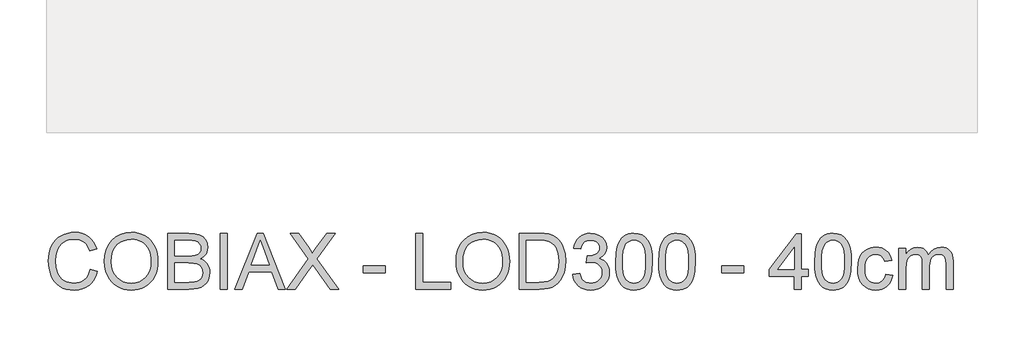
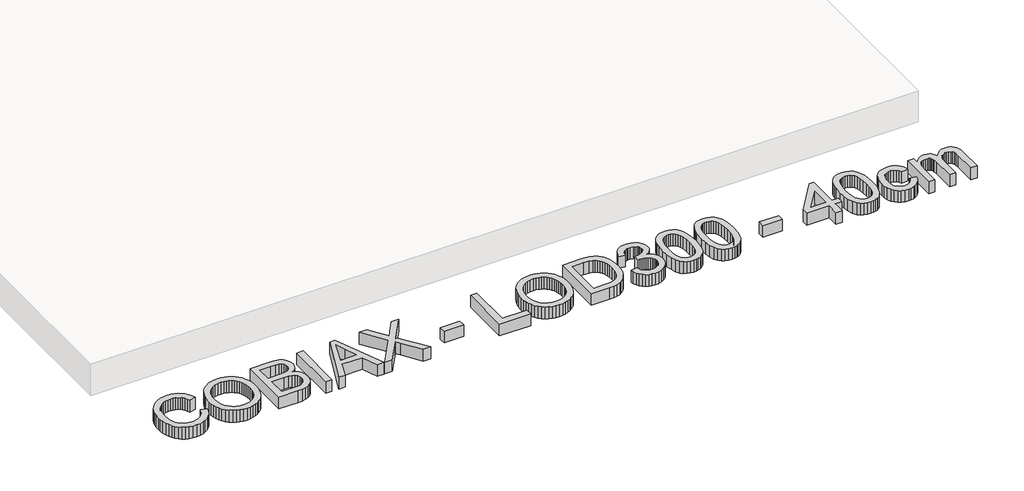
# One storey, part 12 of 18: 1 proxy.
"""IFC4 building model written with IfcOpenShell, lengths in millimetres."""

from ifc_helpers import new_model, si_unit, origin, origin_with_axes, place, context, project, spatial, polyline, outline, extrude, element, save

model = new_model("IFC4")

# Units and contexts
model_context = context("Model", 3, world=origin())
ifc_project = project(units=[si_unit("LENGTHUNIT", "METRE", prefix="MILLI")], contexts=[model_context])

# Site, building, storey
site = spatial("IfcSite", under=ifc_project)
building = spatial("IfcBuilding", under=site)
storey = spatial("IfcBuildingStorey", under=building, Name="COBIAX Slabs", Elevation=0.0)

# Proxy
placement = place(None, origin())
element("IfcBuildingElementProxy", 1, Name="600mm Arial", ObjectType="600mm Arial", at=placement, inside=storey, context=model_context, shape_type="SweptSolid", body=[
    extrude(outline(polyline([(24798.2153953, -22620.9127725), (24873.5576279, -22640.3369419), (24858.64921, -22687.1913125), (24838.7927794, -22728.13198), (24813.9883358, -22763.1589445), (24784.2358795, -22792.2722059), (24750.2067949, -22815.1590645), (24712.5724668, -22831.5068207), (24671.3328952, -22841.3154744), (24626.4880799, -22844.5850256), (24580.5442173, -22842.1110192), (24539.097712, -22834.6889999), (24502.1485641, -22822.3189678), (24469.6967736, -22805.0009229), (24441.2962836, -22782.9923826), (24416.5010371, -22756.5508642), (24395.3110342, -22725.6763677), (24377.7262748, -22690.3688932), (24363.9169044, -22652.155151), (24354.0530684, -22612.5618512), (24348.1347668, -22571.588994), (24346.1619996, -22529.2365793), (24348.3922842, -22483.7939559), (24355.083138, -22441.3495707), (24366.234561, -22401.9034238), (24381.8465531, -22365.4555151), (24401.5696266, -22332.6082514), (24425.0542935, -22303.9640396), (24452.3005538, -22279.5228795), (24483.3084074, -22259.2847713), (24517.0247923, -22243.4152617), (24552.3966461, -22232.0798977), (24589.4239689, -22225.2786793), (24628.1067607, -22223.0116065), (24671.1995379, -22225.9454655), (24710.7146627, -22234.7470422), (24746.6521351, -22249.4163368), (24779.0119551, -22269.9533491), (24807.2606938, -22295.8154534), (24830.8649224, -22326.4600236), (24849.8246407, -22361.8870597), (24864.1398488, -22402.0965618), (24788.7976162, -22420.0492032), (24776.9334219, -22390.420907), (24762.6779946, -22365.1060272), (24746.0313343, -22344.1045638), (24726.993441, -22327.4165168), (24705.4539502, -22314.7015953), (24681.3024972, -22305.6195086), (24654.5390821, -22300.1702565), (24625.1637048, -22298.3538392), (24591.3645465, -22300.3679931), (24560.4532618, -22306.4104549), (24532.4298508, -22316.4812245), (24507.2943135, -22330.5803019), (24485.3639481, -22348.0730908), (24466.9560527, -22368.3249946), (24452.0706275, -22391.3360134), (24440.7076724, -22417.1061472), (24426.3050923, -22472.2516583), (24421.5042322, -22529.0894265), (24427.1880091, -22598.6927), (24434.2927301, -22629.9626696), (24444.2393395, -22658.8781944), (24457.1887858, -22684.8644589), (24473.3020171, -22707.3466473), (24492.5790337, -22726.3247597), (24515.0198354, -22741.7987961), (24539.5345719, -22753.8055448), (24565.0333926, -22762.3817938), (24591.5162978, -22767.5275432), (24618.9832872, -22769.242793), (24651.7385804, -22766.9067423), (24681.8727143, -22759.8985903), (24709.385689, -22748.218337), (24734.2775045, -22731.8659823), (24755.9595496, -22710.9151027), (24773.8432131, -22685.4392745), (24787.928495, -22655.4384978), (24798.2153953, -22620.9127725)])), origin_with_axes(), (0.0, 0.0, 1.0), 150.0),
    extrude(outline(polyline([(24948.8998605, -22541.7445672), (24953.9214497, -22471.0468447), (24968.9862175, -22408.4609203), (24994.0941636, -22353.9867939), (25010.4143286, -22329.7916549), (25029.2452883, -22307.6244654), (25072.3334669, -22270.6063397), (25121.2525753, -22244.1648213), (25176.0026132, -22228.2999102), (25236.5835807, -22223.0116065), (25277.1333737, -22225.49481), (25315.6414215, -22232.9444204), (25352.1077243, -22245.3604378), (25386.532282, -22262.742862), (25417.9494044, -22284.5674614), (25445.3934012, -22310.310004), (25468.8642725, -22339.9704899), (25488.3620182, -22373.548919), (25503.6843033, -22410.2819362), (25514.6287927, -22449.4061864), (25521.1954863, -22490.9216695), (25523.3843842, -22534.8283857), (25521.0805232, -22579.3145159), (25514.1689402, -22621.3910191), (25502.6496352, -22661.0578953), (25486.5226083, -22698.3151443), (25466.1695369, -22732.178682), (25441.9720986, -22761.6644239), (25413.9302936, -22786.7723701), (25382.0441216, -22807.5025205), (25347.5689802, -22823.7261165), (25311.7602665, -22835.3143993), (25274.6179805, -22842.267369), (25236.1421223, -22844.5850256), (25194.8841566, -22842.0236472), (25155.870271, -22834.339512), (25119.1004656, -22821.5326201), (25084.5747403, -22803.6029713), (25053.1944061, -22781.2449431), (25025.8607739, -22755.1529126), (25002.5738436, -22725.3268798), (24983.3336153, -22691.7668448), (24968.2688476, -22655.8201753), (24957.5082992, -22618.8342393), (24951.0519702, -22580.8090365), (24948.8998605, -22541.7445672)]), holes=[polyline([(25024.2420931, -22542.4803312), (25028.0082851, -22592.4295091), (25039.3068608, -22636.7684865), (25058.1378205, -22675.4972636), (25084.5011639, -22708.6158402), (25116.5482842, -22735.140132), (25152.4305743, -22754.0860548), (25192.1480343, -22765.4536084), (25235.700664, -22769.242793), (25279.9982547, -22765.4168202), (25320.1847641, -22753.938902), (25356.2601923, -22734.8090382), (25388.2245392, -22708.027229), (25414.3947446, -22674.2096766), (25433.0877485, -22633.9725834), (25444.3035508, -22587.3159493), (25448.0421516, -22534.2397745), (25446.4418649, -22499.7600345), (25441.6410049, -22467.5427687), (25433.6395715, -22437.5879773), (25422.4375647, -22409.8956601), (25408.1591448, -22384.8291007), (25390.9284718, -22362.7515824), (25370.7455459, -22343.6631054), (25347.6103669, -22327.5636696), (25322.2403048, -22314.7843688), (25295.3527295, -22305.6562968), (25266.9476409, -22300.1794536), (25237.0250391, -22298.3538392), (25194.9853241, -22301.8717107), (25155.9806356, -22312.4253255), (25120.0109735, -22330.0146834), (25087.0763379, -22354.6397844), (25059.5863558, -22387.4870481), (25039.9506543, -22429.7428937), (25028.1692334, -22481.4073214), (25024.2420931, -22542.4803312)])]), origin_with_axes(), (0.0, 0.0, 1.0), 150.0),
    extrude(outline(polyline([(25626.979954, -22835.1672465), (25626.979954, -22232.4293856), (25856.9797774, -22232.4293856), (25920.2370865, -22236.8623637), (25969.6252443, -22250.1612978), (25989.7024042, -22260.2182718), (26007.4803016, -22272.6572818), (26022.9589366, -22287.4783277), (26036.1383091, -22304.6814095), (26054.1829209, -22342.3525258), (26060.1977915, -22381.7894757), (26055.1394141, -22418.0810345), (26039.9642818, -22452.2020895), (26014.56203, -22482.0557135), (25978.8222942, -22505.5449788), (26001.562, -22515.2386694), (26021.5149998, -22527.8386278), (26038.6812934, -22543.3448538), (26053.0608808, -22561.7573477), (26064.423836, -22582.5150893), (26072.5402325, -22605.0570585), (26077.4100704, -22629.3832555), (26079.0333497, -22655.4936801), (26074.6003717, -22697.524198), (26061.3014375, -22736.5012954), (26041.4542039, -22769.6474632), (26017.3763273, -22794.1851923), (25987.8905854, -22811.9538926), (25951.8197558, -22824.7929743), (25907.986616, -22832.5736785), (25855.2139438, -22835.1672465), (25626.979954, -22835.1672465)]), holes=[polyline([(25702.3221866, -22477.2916416), (25839.9100528, -22477.2916416), (25888.0290178, -22475.6729608), (25920.2554806, -22470.8169185), (25948.3800591, -22459.6516999), (25968.5951747, -22442.9314633), (25980.7904629, -22420.9137259), (25984.8555589, -22393.8560051), (25981.0663744, -22367.5892307), (25969.6988207, -22344.7069706), (25951.2679328, -22326.8462997), (25926.2887453, -22315.6442929), (25887.9554414, -22309.7397869), (25829.4622042, -22307.7716182), (25702.3221866, -22307.7716182), (25702.3221866, -22477.2916416)]), polyline([(25702.3221866, -22759.8250139), (25856.8326246, -22759.8250139), (25912.7506879, -22756.8819579), (25938.7047626, -22750.3520525), (25960.0603125, -22740.474421), (25977.4243426, -22726.3293582), (25991.4038584, -22706.9971594), (26000.6193024, -22683.3423471), (26003.6911171, -22656.2294441), (26000.0858735, -22624.7387453), (25989.2701429, -22597.6626304), (25970.3794024, -22576.4910216), (25942.5491295, -22562.7138409), (25903.1305737, -22555.1538659), (25849.4749847, -22552.6338742), (25702.3221866, -22552.6338742), (25702.3221866, -22759.8250139)])]), origin_with_axes(), (0.0, 0.0, 1.0), 150.0),
    extrude(outline(polyline([(26192.0466986, -22835.1672465), (26192.0466986, -22232.4293856), (26267.3889312, -22232.4293856), (26267.3889312, -22835.1672465), (26192.0466986, -22835.1672465)])), origin_with_axes(), (0.0, 0.0, 1.0), 150.0),
    extrude(outline(polyline([(26347.8815118, -22835.1672465), (26588.4763366, -22232.4293856), (26652.6349566, -22232.4293856), (26893.2297814, -22835.1672465), (26813.6201177, -22835.1672465), (26744.6054554, -22646.811665), (26496.358685, -22646.811665), (26427.4911755, -22835.1672465), (26347.8815118, -22835.1672465)]), holes=[polyline([(26524.0234111, -22571.4694324), (26717.0878821, -22571.4694324), (26662.7884996, -22423.2865647), (26620.5556466, -22307.7716182), (26583.0316831, -22410.3371185), (26524.0234111, -22571.4694324)])]), origin_with_axes(), (0.0, 0.0, 1.0), 150.0),
    extrude(outline(polyline([(26907.7979084, -22835.1672465), (27140.1521766, -22506.7222012), (26945.4690247, -22232.4293856), (27035.8208428, -22232.4293856), (27145.4496773, -22386.7926708), (27171.6060872, -22425.8985269), (27182.3850296, -22446.9781652), (27225.6479523, -22385.7626012), (27334.0995644, -22232.4293856), (27425.7757576, -22232.4293856), (27231.0926058, -22507.605118), (27463.4468739, -22835.1672465), (27373.0950559, -22835.1672465), (27218.2903124, -22616.7924942), (27186.0638496, -22571.4694324), (27150.6000252, -22621.2070781), (26999.4741016, -22835.1672465), (26907.7979084, -22835.1672465)])), origin_with_axes(), (0.0, 0.0, 1.0), 150.0),
    extrude(outline(polyline([(27727.1446881, -22656.2294441), (27727.1446881, -22580.8872115), (27962.589165, -22580.8872115), (27962.589165, -22656.2294441), (27727.1446881, -22656.2294441)])), origin_with_axes(), (0.0, 0.0, 1.0), 150.0),
    extrude(outline(polyline([(28292.2114327, -22835.1672465), (28292.2114327, -22232.4293856), (28367.5536653, -22232.4293856), (28367.5536653, -22759.8250139), (28668.9225957, -22759.8250139), (28668.9225957, -22835.1672465), (28292.2114327, -22835.1672465)])), origin_with_axes(), (0.0, 0.0, 1.0), 150.0),
    extrude(outline(polyline([(28725.4292702, -22541.7445672), (28730.4508594, -22471.0468447), (28745.5156271, -22408.4609203), (28770.6235733, -22353.9867939), (28786.9437383, -22329.7916549), (28805.7746979, -22307.6244654), (28848.8628766, -22270.6063397), (28897.7819849, -22244.1648213), (28952.5320229, -22228.2999102), (29013.1129904, -22223.0116065), (29053.6627833, -22225.49481), (29092.1708312, -22232.9444204), (29128.637134, -22245.3604378), (29163.0616917, -22262.742862), (29194.4788141, -22284.5674614), (29221.9228109, -22310.310004), (29245.3936822, -22339.9704899), (29264.8914279, -22373.548919), (29280.213713, -22410.2819362), (29291.1582024, -22449.4061864), (29297.724896, -22490.9216695), (29299.9137939, -22534.8283857), (29297.6099329, -22579.3145159), (29290.6983499, -22621.3910191), (29279.1790449, -22661.0578953), (29263.052018, -22698.3151443), (29242.6989466, -22732.178682), (29218.5015083, -22761.6644239), (29190.4597033, -22786.7723701), (29158.5735313, -22807.5025205), (29124.0983898, -22823.7261165), (29088.2896761, -22835.3143993), (29051.1473902, -22842.267369), (29012.671532, -22844.5850256), (28971.4135663, -22842.0236472), (28932.3996807, -22834.339512), (28895.6298753, -22821.5326201), (28861.10415, -22803.6029713), (28829.7238158, -22781.2449431), (28802.3901836, -22755.1529126), (28779.1032533, -22725.3268798), (28759.8630249, -22691.7668448), (28744.7982572, -22655.8201753), (28734.0377089, -22618.8342393), (28727.5813799, -22580.8090365), (28725.4292702, -22541.7445672)]), holes=[polyline([(28800.7715028, -22542.4803312), (28804.5376947, -22592.4295091), (28815.8362705, -22636.7684865), (28834.6672301, -22675.4972636), (28861.0305736, -22708.6158402), (28893.0776939, -22735.140132), (28928.959984, -22754.0860548), (28968.6774439, -22765.4536084), (29012.2300736, -22769.242793), (29056.5276644, -22765.4168202), (29096.7141738, -22753.938902), (29132.789602, -22734.8090382), (29164.7539488, -22708.027229), (29190.9241543, -22674.2096766), (29209.6171582, -22633.9725834), (29220.8329605, -22587.3159493), (29224.5715613, -22534.2397745), (29222.9712746, -22499.7600345), (29218.1704145, -22467.5427687), (29210.1689811, -22437.5879773), (29198.9669744, -22409.8956601), (29184.6885545, -22384.8291007), (29167.4578815, -22362.7515824), (29147.2749555, -22343.6631054), (29124.1397766, -22327.5636696), (29098.7697145, -22314.7843688), (29071.8821392, -22305.6562968), (29043.4770506, -22300.1794536), (29013.5544488, -22298.3538392), (28971.5147338, -22301.8717107), (28932.5100453, -22312.4253255), (28896.5403832, -22330.0146834), (28863.6057476, -22354.6397844), (28836.1157655, -22387.4870481), (28816.480064, -22429.7428937), (28804.6986431, -22481.4073214), (28800.7715028, -22542.4803312)])]), origin_with_axes(), (0.0, 0.0, 1.0), 150.0),
    extrude(outline(polyline([(29403.5093637, -22835.1672465), (29403.5093637, -22232.4293856), (29611.4362674, -22232.4293856), (29673.5715364, -22234.5998894), (29719.0049628, -22241.1114007), (29767.0503513, -22257.8500315), (29807.5909472, -22284.2271705), (29829.9305814, -22305.7850555), (29849.2719773, -22330.1388435), (29865.6151349, -22357.2885348), (29878.9600543, -22387.2341292), (29889.3251295, -22419.6997153), (29896.7287546, -22454.4093815), (29902.6516548, -22530.5609545), (29898.641741, -22595.2530034), (29886.6119998, -22652.1827421), (29868.2914764, -22700.651195), (29845.4092163, -22739.9593862), (29819.0688655, -22770.9902325), (29790.3740698, -22794.6266507), (29757.4302372, -22812.1562277), (29718.3427752, -22824.8665507), (29673.0381075, -22832.5920726), (29621.4426577, -22835.1672465), (29403.5093637, -22835.1672465)]), holes=[polyline([(29478.8515963, -22759.8250139), (29612.1720314, -22759.8250139), (29667.3175425, -22757.1026871), (29709.1457253, -22748.9357069), (29740.7100005, -22735.8023196), (29765.0637886, -22718.1807721), (29791.2385925, -22685.5680332), (29810.9018852, -22643.3535742), (29823.2075379, -22591.3534542), (29827.3094222, -22529.3837321), (29825.2998668, -22485.6425629), (29819.2712006, -22447.2724708), (29809.2234236, -22414.2734558), (29795.1565358, -22386.645518), (29778.2109714, -22363.7632579), (29759.5271645, -22345.0012761), (29739.1051153, -22330.3595727), (29716.9448236, -22319.8381477), (29673.6083246, -22310.7882506), (29610.1118922, -22307.7716182), (29478.8515963, -22307.7716182), (29478.8515963, -22759.8250139)])]), origin_with_axes(), (0.0, 0.0, 1.0), 150.0),
    extrude(outline(polyline([(29977.9938874, -22675.0650022), (30053.33612, -22665.6472231), (30070.2035095, -22712.9936359), (30081.5756616, -22730.900292), (30094.9067854, -22744.9625813), (30110.5003835, -22755.5851739), (30128.6599585, -22763.1727401), (30149.3855104, -22767.7252798), (30172.6770392, -22769.242793), (30199.9738833, -22767.1550627), (30224.3276713, -22760.8918717), (30245.7384035, -22750.4532201), (30264.2060796, -22735.8391078), (30279.0777093, -22718.1439839), (30289.7003019, -22698.4622971), (30296.0738575, -22676.7940476), (30298.198376, -22653.1392353), (30296.0922516, -22630.6110616), (30289.7738783, -22610.115436), (30279.2432562, -22591.6523583), (30264.5003852, -22575.2218287), (30246.5109557, -22561.7343551), (30226.2406577, -22552.1004453), (30203.6894914, -22546.3200995), (30178.8574567, -22544.3933175), (30155.0554917, -22546.4534567), (30126.0296022, -22552.6338742), (30134.4173117, -22477.2916416), (30146.4838412, -22478.1745584), (30191.622962, -22472.7666931), (30231.9796168, -22456.5430971), (30248.5894889, -22444.2742325), (30260.4536833, -22429.0991002), (30267.5721999, -22411.0177002), (30269.9450388, -22390.0300324), (30268.2251904, -22372.9924975), (30263.0656454, -22357.4908699), (30254.4664038, -22343.5251496), (30242.4274655, -22331.0953367), (30227.6753975, -22320.8912099), (30210.9367667, -22313.6025479), (30171.4998168, -22307.7716182), (30150.8432428, -22309.2431462), (30131.9892906, -22313.6577302), (30114.9379601, -22321.0153701), (30099.6892514, -22331.3160659), (30086.6202435, -22344.5598178), (30076.1080155, -22360.7466255), (30068.1525673, -22379.8764893), (30062.7538991, -22401.949409), (29987.4116665, -22392.5316299), (29996.3420019, -22356.5619678), (30009.5949508, -22324.878131), (30027.1705131, -22297.4801194), (30049.0686888, -22274.3679331), (30074.5996993, -22256.0198186), (30103.0737657, -22242.9140225), (30134.4908881, -22235.0505448), (30168.8510665, -22232.4293856), (30216.2158734, -22237.5981277), (30259.7179193, -22253.1043538), (30296.3957542, -22277.5685064), (30323.2879281, -22309.6110282), (30339.7874355, -22346.5279864), (30345.2872714, -22385.6154484), (30340.063347, -22422.0357659), (30324.391574, -22455.0715691), (30298.4926816, -22483.2145417), (30262.5873988, -22504.9563677), (30287.695345, -22512.8106482), (30309.7498706, -22524.012655), (30328.7509757, -22538.5623879), (30344.6986602, -22556.459847), (30357.3170126, -22577.2635738), (30366.3301215, -22600.53211), (30371.7379868, -22626.2654556), (30373.5406086, -22654.4636105), (30369.935365, -22692.6865498), (30359.1196344, -22727.8928567), (30341.0934166, -22760.0825313), (30315.8567117, -22789.2555735), (30285.110974, -22813.4622088), (30250.5576576, -22830.7526626), (30212.1967626, -22841.1269348), (30170.0282889, -22844.5850256), (30131.9157142, -22841.6327726), (30097.1876538, -22832.7760136), (30065.8441078, -22818.0147485), (30037.8850762, -22797.3489774), (30014.4417961, -22771.9927109), (29996.6455045, -22743.1599595), (29984.4962016, -22710.8507233), (29977.9938874, -22675.0650022)])), origin_with_axes(), (0.0, 0.0, 1.0), 150.0),
    extrude(outline(polyline([(30439.4650621, -22538.6543584), (30445.0016862, -22442.1773052), (30451.9224662, -22401.2642288), (30461.6115582, -22365.2347859), (30474.0275756, -22333.7946709), (30489.1291315, -22306.6495782), (30506.9162259, -22283.7995077), (30527.388859, -22265.2444596), (30550.6160084, -22250.8878647), (30576.6666522, -22240.6331541), (30605.5407903, -22234.4803277), (30637.2384227, -22232.4293856), (30683.6651305, -22237.285428), (30725.235796, -22251.853555), (30760.0006445, -22275.5635496), (30786.0099016, -22307.8451946), (30805.6548001, -22348.4225787), (30821.3265731, -22397.0197903), (30831.5904808, -22458.731995), (30835.0117833, -22538.6543584), (30829.5303416, -22634.5795887), (30822.6785395, -22675.3547093), (30813.0860164, -22711.3381669), (30800.7665681, -22742.7920775), (30785.7339901, -22769.978557), (30767.9882823, -22792.8976053), (30747.5294449, -22811.5492224), (30724.2747043, -22826.0023863), (30698.141287, -22836.3260748), (30669.1291932, -22842.5202879), (30637.2384227, -22844.5850256), (30595.7413337, -22840.9981761), (30558.9531342, -22830.2376278), (30526.8738242, -22812.3033805), (30499.5034037, -22787.1954344), (30473.2366293, -22741.8079932), (30454.4746475, -22685.2553335), (30443.2174585, -22617.5374552), (30439.4650621, -22538.6543584)]), holes=[polyline([(30514.8072947, -22538.5072056), (30517.0145867, -22604.0039963), (30523.6364626, -22657.0203904), (30534.6729225, -22697.5563877), (30550.1239663, -22725.6119884), (30568.8123716, -22744.7004654), (30589.5609162, -22758.3350918), (30612.3695999, -22766.5158677), (30637.2384227, -22769.242793), (30662.1072456, -22766.5066706), (30684.9159293, -22758.2983036), (30705.6644738, -22744.6176919), (30724.3528792, -22725.4648356), (30739.803923, -22697.3632497), (30750.8403828, -22656.8364494), (30757.4622588, -22603.8844347), (30759.6695507, -22538.5072056), (30757.5358352, -22474.7440588), (30751.1346884, -22422.6611653), (30740.4661106, -22382.2585252), (30725.5301016, -22353.5361384), (30707.1543959, -22333.5141609), (30686.1667281, -22319.2127483), (30662.5670981, -22310.6319008), (30636.3555059, -22307.7716182), (30611.6154418, -22310.2916099), (30589.1930342, -22317.8515849), (30569.0882831, -22330.4515432), (30551.3011887, -22348.0914849), (30535.3351101, -22379.3614545), (30523.9307682, -22421.5207311), (30517.0881631, -22474.5693149), (30514.8072947, -22538.5072056)])]), origin_with_axes(), (0.0, 0.0, 1.0), 150.0),
    extrude(outline(polyline([(30900.9362369, -22538.6543584), (30906.4728609, -22442.1773052), (30913.3936409, -22401.2642288), (30923.082733, -22365.2347859), (30935.4987503, -22333.7946709), (30950.6003062, -22306.6495782), (30968.3874007, -22283.7995077), (30988.8600337, -22265.2444596), (31012.0871832, -22250.8878647), (31038.137827, -22240.6331541), (31067.0119651, -22234.4803277), (31098.7095975, -22232.4293856), (31145.1363053, -22237.285428), (31186.7069707, -22251.853555), (31221.4718193, -22275.5635496), (31247.4810763, -22307.8451946), (31267.1259749, -22348.4225787), (31282.7977479, -22397.0197903), (31293.0616555, -22458.731995), (31296.4829581, -22538.6543584), (31291.0015164, -22634.5795887), (31284.1497142, -22675.3547093), (31274.5571912, -22711.3381669), (31262.2377429, -22742.7920775), (31247.2051648, -22769.978557), (31229.4594571, -22792.8976053), (31209.0006196, -22811.5492224), (31185.745879, -22826.0023863), (31159.6124618, -22836.3260748), (31130.6003679, -22842.5202879), (31098.7095975, -22844.5850256), (31057.2125084, -22840.9981761), (31020.4243089, -22830.2376278), (30988.3449989, -22812.3033805), (30960.9745785, -22787.1954344), (30934.707804, -22741.8079932), (30915.9458223, -22685.2553335), (30904.6886332, -22617.5374552), (30900.9362369, -22538.6543584)]), holes=[polyline([(30976.2784695, -22538.5072056), (30978.4857615, -22604.0039963), (30985.1076374, -22657.0203904), (30996.1440972, -22697.5563877), (31011.595141, -22725.6119884), (31030.2835464, -22744.7004654), (31051.0320909, -22758.3350918), (31073.8407746, -22766.5158677), (31098.7095975, -22769.242793), (31123.5784204, -22766.5066706), (31146.3871041, -22758.2983036), (31167.1356486, -22744.6176919), (31185.8240539, -22725.4648356), (31201.2750977, -22697.3632497), (31212.3115576, -22656.8364494), (31218.9334335, -22603.8844347), (31221.1407255, -22538.5072056), (31219.0070099, -22474.7440588), (31212.6058632, -22422.6611653), (31201.9372853, -22382.2585252), (31187.0012763, -22353.5361384), (31168.6255707, -22333.5141609), (31147.6379028, -22319.2127483), (31124.0382729, -22310.6319008), (31097.8266807, -22307.7716182), (31073.0866165, -22310.2916099), (31050.6642089, -22317.8515849), (31030.5594579, -22330.4515432), (31012.7723634, -22348.0914849), (30996.8062848, -22379.3614545), (30985.401943, -22421.5207311), (30978.5593379, -22474.5693149), (30976.2784695, -22538.5072056)])]), origin_with_axes(), (0.0, 0.0, 1.0), 150.0),
    extrude(outline(polyline([(31579.0163304, -22656.2294441), (31579.0163304, -22580.8872115), (31814.4608073, -22580.8872115), (31814.4608073, -22656.2294441), (31579.0163304, -22656.2294441)])), origin_with_axes(), (0.0, 0.0, 1.0), 150.0),
    extrude(outline(polyline([(32360.6919937, -22835.1672465), (32360.6919937, -22693.9005604), (32087.5764005, -22693.9005604), (32087.5764005, -22618.5583278), (32379.5275519, -22241.8471647), (32436.0342264, -22241.8471647), (32436.0342264, -22618.5583278), (32511.376459, -22618.5583278), (32511.376459, -22693.9005604), (32436.0342264, -22693.9005604), (32436.0342264, -22835.1672465), (32360.6919937, -22835.1672465)]), holes=[polyline([(32360.6919937, -22618.5583278), (32360.6919937, -22385.7626012), (32180.2826633, -22618.5583278), (32360.6919937, -22618.5583278)])]), origin_with_axes(), (0.0, 0.0, 1.0), 150.0),
    extrude(outline(polyline([(32577.3009125, -22538.6543584), (32582.8375365, -22442.1773052), (32589.7583166, -22401.2642288), (32599.4474086, -22365.2347859), (32611.8634259, -22333.7946709), (32626.9649818, -22306.6495782), (32644.7520763, -22283.7995077), (32665.2247093, -22265.2444596), (32688.4518588, -22250.8878647), (32714.5025026, -22240.6331541), (32743.3766407, -22234.4803277), (32775.0742731, -22232.4293856), (32821.5009809, -22237.285428), (32863.0716464, -22251.853555), (32897.8364949, -22275.5635496), (32923.845752, -22307.8451946), (32943.4906505, -22348.4225787), (32959.1624235, -22397.0197903), (32969.4263312, -22458.731995), (32972.8476337, -22538.6543584), (32967.366192, -22634.5795887), (32960.5143898, -22675.3547093), (32950.9218668, -22711.3381669), (32938.6024185, -22742.7920775), (32923.5698405, -22769.978557), (32905.8241327, -22792.8976053), (32885.3652953, -22811.5492224), (32862.1105546, -22826.0023863), (32835.9771374, -22836.3260748), (32806.9650436, -22842.5202879), (32775.0742731, -22844.5850256), (32733.5771841, -22840.9981761), (32696.7889845, -22830.2376278), (32664.7096746, -22812.3033805), (32637.3392541, -22787.1954344), (32611.0724797, -22741.8079932), (32592.3104979, -22685.2553335), (32581.0533089, -22617.5374552), (32577.3009125, -22538.6543584)]), holes=[polyline([(32652.6431451, -22538.5072056), (32654.8504371, -22604.0039963), (32661.472313, -22657.0203904), (32672.5087729, -22697.5563877), (32687.9598166, -22725.6119884), (32706.648222, -22744.7004654), (32727.3967665, -22758.3350918), (32750.2054502, -22766.5158677), (32775.0742731, -22769.242793), (32799.943096, -22766.5066706), (32822.7517797, -22758.2983036), (32843.5003242, -22744.6176919), (32862.1887296, -22725.4648356), (32877.6397734, -22697.3632497), (32888.6762332, -22656.8364494), (32895.2981091, -22603.8844347), (32897.5054011, -22538.5072056), (32895.3716855, -22474.7440588), (32888.9705388, -22422.6611653), (32878.301961, -22382.2585252), (32863.3659519, -22353.5361384), (32844.9902463, -22333.5141609), (32824.0025785, -22319.2127483), (32800.4029485, -22310.6319008), (32774.1913563, -22307.7716182), (32749.4512921, -22310.2916099), (32727.0288845, -22317.8515849), (32706.9241335, -22330.4515432), (32689.137039, -22348.0914849), (32673.1709604, -22379.3614545), (32661.7666186, -22421.5207311), (32654.9240135, -22474.5693149), (32652.6431451, -22538.5072056)])]), origin_with_axes(), (0.0, 0.0, 1.0), 150.0),
    extrude(outline(polyline([(33340.1410177, -22675.0650022), (33415.4832503, -22684.4827813), (33407.2886789, -22720.0339776), (33394.4771884, -22751.4924867), (33377.0487789, -22778.8583086), (33355.0034503, -22802.1314434), (33329.2701047, -22820.7048856), (33300.7776442, -22833.97163), (33269.5260687, -22841.9316767), (33235.5153783, -22844.5850256), (33193.2595326, -22840.883213), (33155.3722856, -22829.7777753), (33121.8536373, -22811.2687124), (33092.7035877, -22785.3560244), (33069.1085563, -22752.5271548), (33052.2549624, -22713.2695474), (33042.142806, -22667.5832021), (33038.7720873, -22615.468119), (33044.5294405, -22548.4216254), (33051.726132, -22518.2507033), (33061.8015001, -22490.3146642), (33074.8245228, -22465.1745284), (33090.8641778, -22443.3913158), (33109.9204651, -22424.9650263), (33131.9933848, -22409.8956601), (33156.085057, -22398.1786186), (33181.1976017, -22389.8093032), (33207.3310189, -22384.7877139), (33234.4853087, -22383.1138508), (33267.9119865, -22385.4131133), (33298.1472879, -22392.3109007), (33325.1912131, -22403.8072131), (33349.043762, -22419.9020504), (33369.3002643, -22440.2275306), (33385.55605, -22464.4157718), (33397.811119, -22492.4667739), (33406.0654712, -22524.380537), (33330.7232386, -22533.7983161), (33317.0564225, -22500.9280598), (33295.7744491, -22477.365218), (33268.0545407, -22463.1833671), (33235.0739199, -22458.4560835), (33209.4739315, -22460.7829371), (33186.3847378, -22467.7634979), (33165.8063387, -22479.397766), (33147.7387342, -22495.6857414), (33133.0280529, -22517.004503), (33122.5204235, -22543.7311299), (33116.2158458, -22575.8656222), (33114.1143199, -22613.4079798), (33116.1698605, -22651.515956), (33122.3364825, -22684.0229288), (33132.6141857, -22710.9288982), (33147.0029702, -22732.2338643), (33164.7118898, -22748.4252706), (33184.949998, -22759.9905608), (33207.717295, -22766.9297349), (33233.0137807, -22769.242793), (33272.0276663, -22763.4670457), (33288.8996543, -22756.2473615), (33304.0150058, -22746.1398037), (33316.9506564, -22733.0340076), (33327.283542, -22716.8196087), (33335.0136624, -22697.4966069), (33340.1410177, -22675.0650022)])), origin_with_axes(), (0.0, 0.0, 1.0), 150.0),
    extrude(outline(polyline([(33481.4077038, -22835.1672465), (33481.4077038, -22392.5316299), (33556.7499365, -22392.5316299), (33556.7499365, -22465.372265), (33579.4114674, -22431.9133975), (33608.5477214, -22405.7018054), (33643.1654171, -22388.7608395), (33682.2712732, -22383.1138508), (33724.1730325, -22388.8712041), (33742.0061122, -22396.0678956), (33757.7606586, -22406.1432637), (33782.8502107, -22433.7895957), (33799.2577477, -22470.6697657), (33826.7201386, -22432.364053), (33858.0452905, -22405.0028296), (33893.2332033, -22388.5860955), (33932.2838771, -22383.1138508), (33962.4456022, -22385.3901207), (33988.9193103, -22392.2189302), (34011.7050014, -22403.6002795), (34030.8026754, -22419.5341684), (34045.8996328, -22440.204538), (34056.6831738, -22465.7953293), (34063.1532984, -22496.3065422), (34065.3100066, -22531.7381769), (34065.3100066, -22835.1672465), (33989.967774, -22835.1672465), (33989.967774, -22564.1117925), (33988.2203345, -22526.5326467), (33982.9780161, -22501.2039713), (33973.1555668, -22483.8583352), (33957.6677348, -22470.2283073), (33937.7469248, -22461.3991394), (33914.6255414, -22458.4560835), (33893.2745901, -22460.3414787), (33873.809034, -22465.9976644), (33856.2288732, -22475.4246405), (33840.5341075, -22488.6224071), (33827.626048, -22505.9772402), (33818.4060055, -22527.875416), (33812.87398, -22554.3169344), (33811.0299715, -22585.3017954), (33811.0299715, -22835.1672465), (33735.6877389, -22835.1672465), (33735.6877389, -22555.724083), (33731.3283373, -22513.1233479), (33725.8790852, -22496.4031113), (33718.2501323, -22482.7362951), (33708.137976, -22472.1137025), (33695.2391135, -22464.5261364), (33679.553545, -22459.9735967), (33661.0812703, -22458.4560835), (33632.0553809, -22462.5027854), (33605.3103598, -22474.6428912), (33583.2374401, -22494.5820954), (33568.2278547, -22522.0260922), (33559.619416, -22560.1018787), (33556.7499365, -22611.9364518), (33556.7499365, -22835.1672465), (33481.4077038, -22835.1672465)])), origin_with_axes(), (0.0, 0.0, 1.0), 150.0),
])

save(model, "model.ifc")
